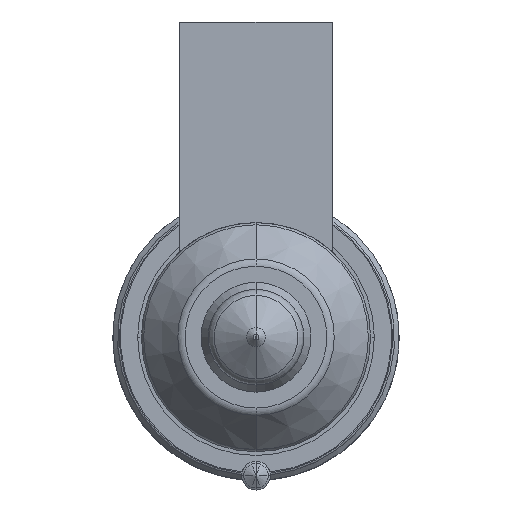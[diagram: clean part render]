
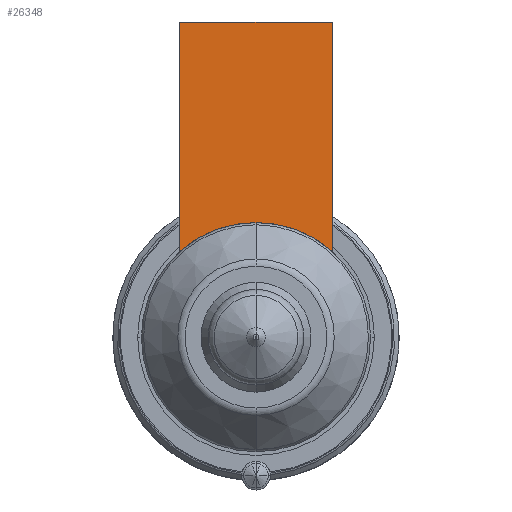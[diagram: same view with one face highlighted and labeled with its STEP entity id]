
A CAD part, front view. The second image highlights one B-rep face of the part: STEP entity #26348.
In plain terms, the highlighted planar face has unit normal (0, -1, 0).
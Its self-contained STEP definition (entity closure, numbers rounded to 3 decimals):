
#25500=DIRECTION('',(0.,0.,-1.));
#25501=VECTOR('',#25500,24.056);
#25502=CARTESIAN_POINT('',(-8.,-56.,33.));
#25503=LINE('',#25502,#25501);
#25540=DIRECTION('',(1.,0.,0.));
#25541=VECTOR('',#25540,16.);
#25542=CARTESIAN_POINT('',(-8.,-56.,33.));
#25543=LINE('',#25542,#25541);
#25547=CARTESIAN_POINT('',(0.,-56.,0.));
#25548=DIRECTION('',(0.,-1.,0.));
#25549=DIRECTION('',(0.667,0.,0.745));
#25550=AXIS2_PLACEMENT_3D('',#25547,#25548,#25549);
#25555=CARTESIAN_POINT('',(0.,-56.,0.));
#25556=DIRECTION('',(0.,-1.,0.));
#25557=DIRECTION('',(0.,0.,1.));
#25558=AXIS2_PLACEMENT_3D('',#25555,#25556,#25557);
#25591=DIRECTION('',(0.,0.,-1.));
#25592=VECTOR('',#25591,24.056);
#25593=CARTESIAN_POINT('',(8.,-56.,33.));
#25594=LINE('',#25593,#25592);
#26192=CARTESIAN_POINT('',(-8.,-56.,33.));
#26193=VERTEX_POINT('',#26192);
#26198=CARTESIAN_POINT('',(8.,-56.,33.));
#26199=VERTEX_POINT('',#26198);
#26202=CARTESIAN_POINT('',(-8.,-56.,8.944));
#26203=VERTEX_POINT('',#26202);
#26206=CARTESIAN_POINT('',(8.,-56.,8.944));
#26207=VERTEX_POINT('',#26206);
#26267=CARTESIAN_POINT('',(0.,-56.,12.));
#26268=VERTEX_POINT('',#26267);
#26333=CARTESIAN_POINT('',(-8.,-56.,33.));
#26334=DIRECTION('',(0.,-1.,0.));
#26335=DIRECTION('',(0.,0.,-1.));
#26336=AXIS2_PLACEMENT_3D('',#26333,#26334,#26335);
#26337=PLANE('',#26336);
#26338=ORIENTED_EDGE('',*,*,#26281,.F.);
#26340=ORIENTED_EDGE('',*,*,#26339,.T.);
#26342=ORIENTED_EDGE('',*,*,#26341,.T.);
#26344=ORIENTED_EDGE('',*,*,#26343,.T.);
#26345=ORIENTED_EDGE('',*,*,#26313,.T.);
#26346=EDGE_LOOP('',(#26338,#26340,#26342,#26344,#26345));
#26347=FACE_OUTER_BOUND('',#26346,.F.);
#26348=ADVANCED_FACE('',(#26347),#26337,.T.);
#25551=CIRCLE('',#25550,12.);
#25559=CIRCLE('',#25558,12.);
#26281=EDGE_CURVE('',#26193,#26203,#25503,.T.);
#26313=EDGE_CURVE('',#26268,#26203,#25559,.T.);
#26339=EDGE_CURVE('',#26193,#26199,#25543,.T.);
#26341=EDGE_CURVE('',#26199,#26207,#25594,.T.);
#26343=EDGE_CURVE('',#26207,#26268,#25551,.T.);
